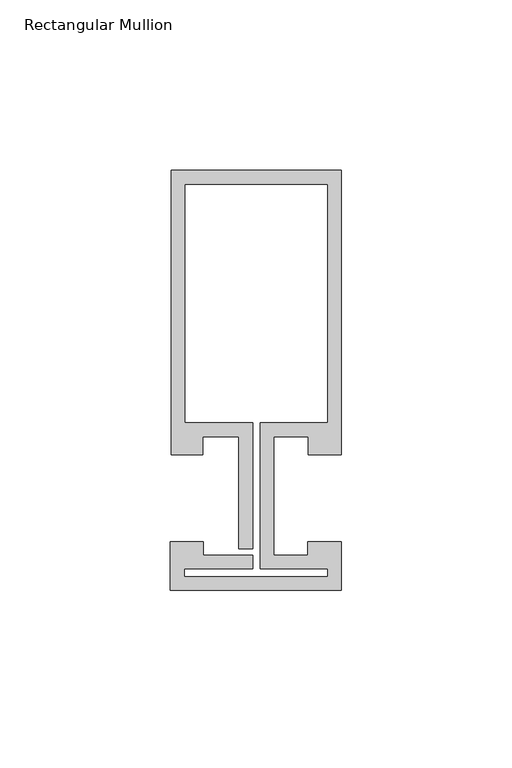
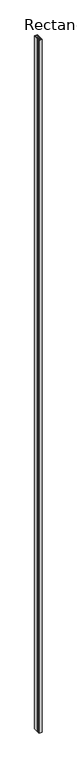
"""IFC4 building model written with IfcOpenShell, lengths in millimetres: member geometry, Rectangular Mullion : Reynaers_CW-50_Transom-Transom_83.5mm_Facecap-02A."""

from ifc_helpers import new_model, si_unit, frame, origin, place, context, project, spatial, polyline, outline, extrude, source, transform, mapped, element, save


def rectangular_mullion_864811ac(model_context):
    return source(origin(), model_context, "Body", "SweptSolid", [
        extrude(outline(polyline([(25.1995941, -12.7331291), (25.1995941, -27.0331291), (-24.994845, -27.0331291), (-24.994845, -12.7331291), (-15.2996495, -12.7331291), (-15.2996495, -16.7331291), (-0.9004059, -16.7331291), (-0.9004059, -20.7331291), (-20.994845, -20.7331291), (-20.994845, -23.0331291), (21.1995941, -23.0331291), (21.1995941, -20.7331291), (1.2995941, -20.7331291), (1.2995941, 22.1331291), (21.1995941, 22.1331291), (21.1995941, 92.2331291), (-20.8004059, 92.2331291), (-20.8004059, 22.1331291), (-0.9004059, 22.1331291), (-0.9004059, -14.7331291), (-4.9004059, -14.7331291), (-4.9004059, 18.1331291), (-15.499, 18.1331291), (-15.499, 12.7331291), (-24.8004059, 12.7331291), (-24.8004059, 96.2331291), (25.1995941, 96.2331291), (25.1995941, 12.7331291), (15.499, 12.7331291), (15.499, 18.1331291), (5.2995941, 18.1331291), (5.2995941, -16.7331291), (15.2996495, -16.7331291), (15.2996495, -12.7331291), (25.1995941, -12.7331291)])), frame((0.0, 0.0, -12000.0), z_axis=(0.0, 0.0, 1.0), x_axis=(1.0, 0.0, 0.0)), (0.0, 0.0, 1.0), 12000.0),
    ])


if __name__ == "__main__":
    model = new_model("IFC4")
    model_context = context("Model", 3, world=origin())
    ifc_project = project(units=[si_unit("LENGTHUNIT", "METRE", prefix="MILLI")], contexts=[model_context])
    site = spatial("IfcSite", under=ifc_project)
    building = spatial("IfcBuilding", under=site)
    placement = place(None, origin())
    rectangular_mullion_shape = rectangular_mullion_864811ac(model_context)
    element("IfcMember", 1, ObjectType="Rectangular Mullion : Reynaers_CW-50_Transom-Transom_83.5mm_Facecap-02A", at=placement, inside=building, context=model_context, shape_type="MappedRepresentation", body=[
        mapped(rectangular_mullion_shape, transform((0.0, 0.0, 0.0), x_axis=(1.0, 0.0, 0.0), y_axis=(0.0, 1.0, 0.0), z_axis=(0.0, 0.0, 1.0))),
    ])
    save(model, "model.ifc")
